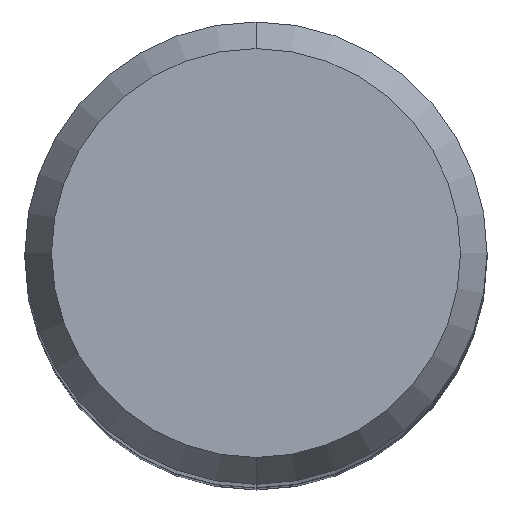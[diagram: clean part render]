
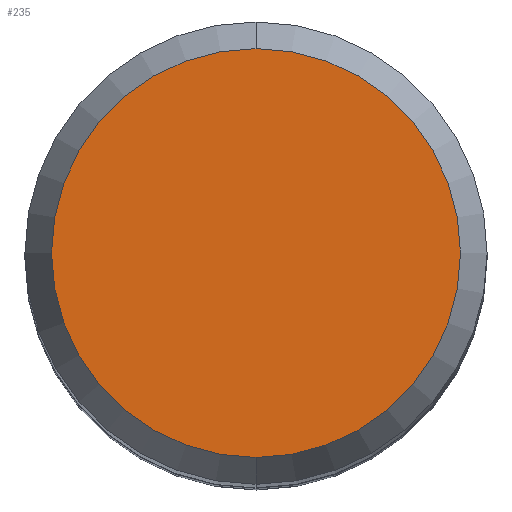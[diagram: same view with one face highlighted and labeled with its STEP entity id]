
A CAD part, top view. The second image highlights one B-rep face of the part: STEP entity #235.
In plain terms, the highlighted planar face has unit normal (0, 0, 1).
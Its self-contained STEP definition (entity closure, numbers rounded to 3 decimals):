
#235=ADVANCED_FACE('',(#643),#644,.T.);
#315=EDGE_CURVE('',#605,#485,#732,.T.);
#333=EDGE_CURVE('',#485,#605,#751,.T.);
#485=VERTEX_POINT('',#918);
#605=VERTEX_POINT('',#1056);
#643=FACE_OUTER_BOUND('',#1089,.T.);
#644=PLANE('',#1090);
#732=CIRCLE('',#1299,4.423);
#751=CIRCLE('',#1338,4.423);
#918=CARTESIAN_POINT('',(0.0,4.423,0.0));
#1056=CARTESIAN_POINT('',(0.,-4.423,0.0));
#1089=EDGE_LOOP('',(#1901,#1902));
#1090=AXIS2_PLACEMENT_3D('',#1903,#1904,#1905);
#1299=AXIS2_PLACEMENT_3D('',#1989,#1990,#1991);
#1338=AXIS2_PLACEMENT_3D('',#2004,#2005,#2006);
#1901=ORIENTED_EDGE('',*,*,#333,.F.);
#1902=ORIENTED_EDGE('',*,*,#315,.F.);
#1903=CARTESIAN_POINT('',(0.0,2.211,0.0));
#1904=DIRECTION('',(-0.0,0.0,1.0));
#1905=DIRECTION('',(0.0,-1.0,0.0));
#1989=CARTESIAN_POINT('',(0.0,0.0,0.0));
#1990=DIRECTION('',(0.0,0.0,-1.0));
#1991=DIRECTION('',(0.0,1.0,0.0));
#2004=CARTESIAN_POINT('',(0.0,0.0,0.0));
#2005=DIRECTION('',(0.0,0.0,-1.0));
#2006=DIRECTION('',(0.0,1.0,0.0));
